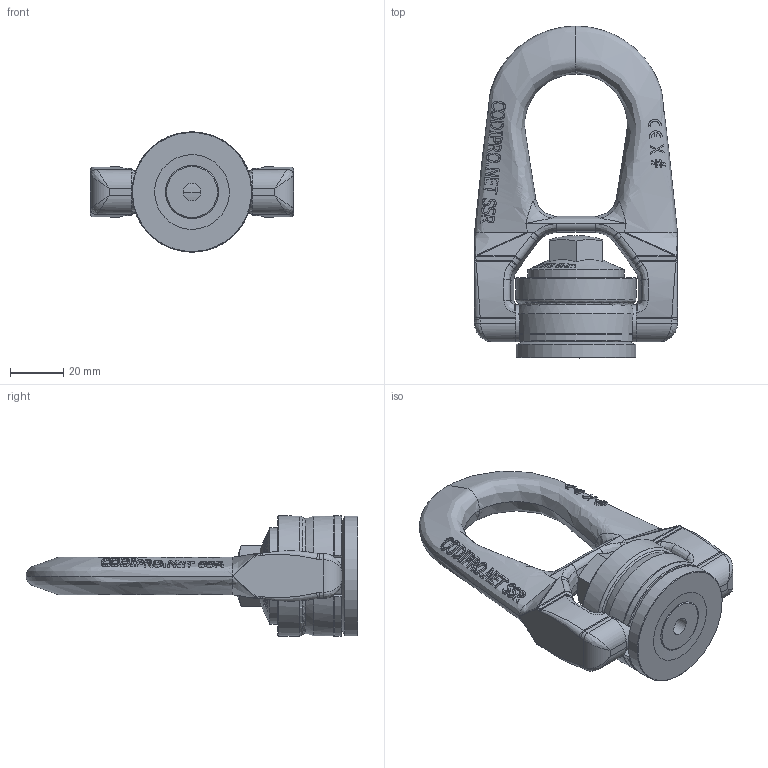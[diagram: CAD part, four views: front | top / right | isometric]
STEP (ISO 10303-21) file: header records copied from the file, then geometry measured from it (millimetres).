
FILE_DESCRIPTION(/* description */ (''),/* implementation_level */ '2;1');
FILE_NAME(/* name */ 'W:\CODIPRO\DOCUMENTS\Plans A NE PAS DIFFUSER !!!\Inventor\Standard Inventor\Produit Fini Inventor\SS_FE_DSR\Fichiers 3D\SS FE DSR M8.stp',/* time_stamp */ '2017-10-06T08:25:26+02:00',/* author */ ('rklenes'),/* organization */ (''),/* preprocessor_version */ 'ST-DEVELOPER v16.5',/* originating_system */ 'Autodesk Inventor 2017',/* authorisation */ '');
FILE_SCHEMA (('AUTOMOTIVE_DESIGN { 1 0 10303 214 3 1 1 }'));
Products named in the file (5): FE DSR M8; DRM_AF2B-1; FE_DRA_M8; DRB_B2B; DRE_D2M20A
Assembly tree (4 placements, depth 2):
  FE DSR M8
    DRM_AF2B-1
    FE_DRA_M8
    DRB_B2B
    DRE_D2M20A
Bounding box: 76 x 124.25 x 45 mm (x, y, z)
Volume: 106696.9 mm3; surface area: 36243.3 mm2
Topology: 4 solids, 4 shells, 775 faces, 2047 edges, 1307 vertices
Faces by surface type: bspline 331, plane 322, cylinder 81, cone 29, torus 11, sphere 1
Full cylindrical faces by diameter (mm): 6.647 x1, 14 x2, 19.85 x3, 20.05 x1, 22.6 x2, 23 x2, 32 x1, 36 x1, 45 x2
Entity records: 43658 total; most frequent: CARTESIAN_POINT 26886, ORIENTED_EDGE 3998, DIRECTION 2553, EDGE_CURVE 1999, VERTEX_POINT 1302, AXIS2_PLACEMENT_3D 938, EDGE_LOOP 853, FACE_OUTER_BOUND 775
